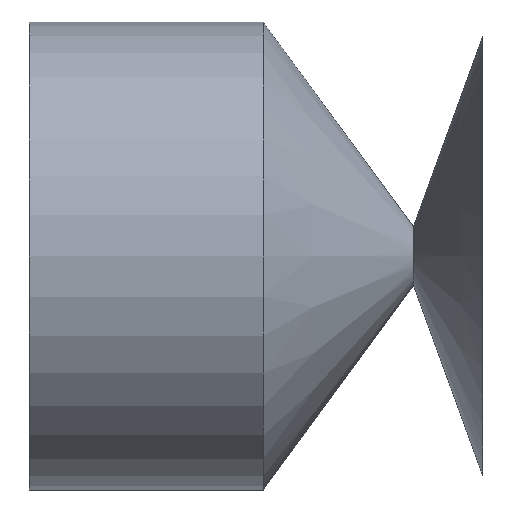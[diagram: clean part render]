
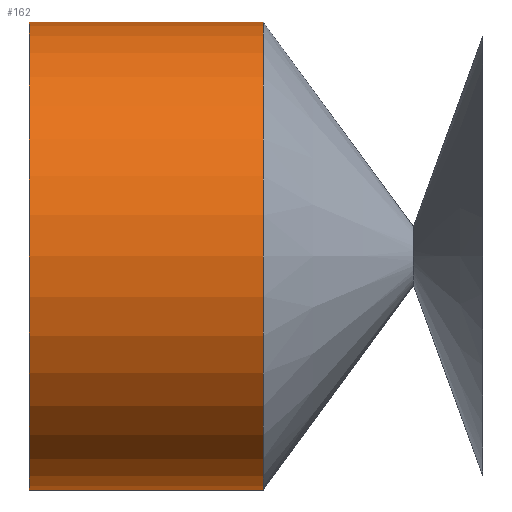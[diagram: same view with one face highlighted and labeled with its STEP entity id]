
A CAD part, left-side view. The second image highlights one B-rep face of the part: STEP entity #162.
In plain terms, the highlighted cylindrical face has radius 8 mm (diameter 16 mm), a partial arc.
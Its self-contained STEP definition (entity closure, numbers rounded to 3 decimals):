
#28 = CARTESIAN_POINT ( 'NONE',  ( 0., 0., 0. ) ) ;
#39 = CARTESIAN_POINT ( 'NONE',  ( 0., 7.5, 8. ) ) ;
#40 = VERTEX_POINT ( 'NONE', #398 ) ;
#55 = ORIENTED_EDGE ( 'NONE', *, *, #324, .F. ) ;
#56 = CIRCLE ( 'NONE', #490, 8. ) ;
#62 = EDGE_CURVE ( 'NONE', #124, #40, #309, .T. ) ;
#64 = ORIENTED_EDGE ( 'NONE', *, *, #78, .F. ) ;
#78 = EDGE_CURVE ( 'NONE', #519, #132, #360, .T. ) ;
#84 = FACE_OUTER_BOUND ( 'NONE', #198, .T. ) ;
#95 = DIRECTION ( 'NONE',  ( 0., -1., 0. ) ) ;
#97 = DIRECTION ( 'NONE',  ( 0., 0., -1. ) ) ;
#111 = DIRECTION ( 'NONE',  ( 0., 0., -1. ) ) ;
#121 = CYLINDRICAL_SURFACE ( 'NONE', #245, 8. ) ;
#124 = VERTEX_POINT ( 'NONE', #136 ) ;
#132 = VERTEX_POINT ( 'NONE', #39 ) ;
#136 = CARTESIAN_POINT ( 'NONE',  ( 0., 15.5, -8. ) ) ;
#162 = ADVANCED_FACE ( 'NONE', ( #84 ), #121, .T. ) ;
#178 = ORIENTED_EDGE ( 'NONE', *, *, #62, .T. ) ;
#198 = EDGE_LOOP ( 'NONE', ( #64, #231, #178, #55 ) ) ;
#215 = VECTOR ( 'NONE', #461, 1000. ) ;
#231 = ORIENTED_EDGE ( 'NONE', *, *, #331, .T. ) ;
#234 = CARTESIAN_POINT ( 'NONE',  ( 0., 15.5, 0. ) ) ;
#237 = CARTESIAN_POINT ( 'NONE',  ( 0., 15.5, 8. ) ) ;
#245 = AXIS2_PLACEMENT_3D ( 'NONE', #28, #95, #111 ) ;
#254 = CARTESIAN_POINT ( 'NONE',  ( 0., 7.5, 0. ) ) ;
#255 = CARTESIAN_POINT ( 'NONE',  ( 0., 0., 8. ) ) ;
#309 = LINE ( 'NONE', #339, #479 ) ;
#318 = DIRECTION ( 'NONE',  ( 0., 0., -1. ) ) ;
#324 = EDGE_CURVE ( 'NONE', #132, #40, #56, .T. ) ;
#331 = EDGE_CURVE ( 'NONE', #519, #124, #463, .T. ) ;
#339 = CARTESIAN_POINT ( 'NONE',  ( 0., 0., -8. ) ) ;
#347 = DIRECTION ( 'NONE',  ( 0., -1., 0. ) ) ;
#360 = LINE ( 'NONE', #255, #215 ) ;
#398 = CARTESIAN_POINT ( 'NONE',  ( 0., 7.5, -8. ) ) ;
#461 = DIRECTION ( 'NONE',  ( 0., -1., 0. ) ) ;
#463 = CIRCLE ( 'NONE', #468, 8. ) ;
#466 = DIRECTION ( 'NONE',  ( 0., -1., 0. ) ) ;
#468 = AXIS2_PLACEMENT_3D ( 'NONE', #234, #491, #318 ) ;
#479 = VECTOR ( 'NONE', #347, 1000. ) ;
#490 = AXIS2_PLACEMENT_3D ( 'NONE', #254, #466, #97 ) ;
#491 = DIRECTION ( 'NONE',  ( 0., -1., 0. ) ) ;
#519 = VERTEX_POINT ( 'NONE', #237 ) ;
